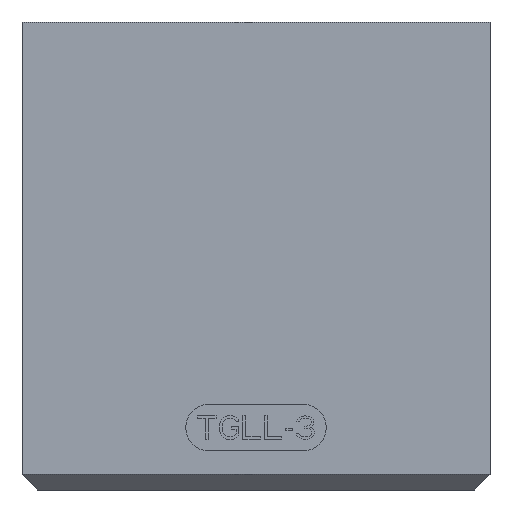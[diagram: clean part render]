
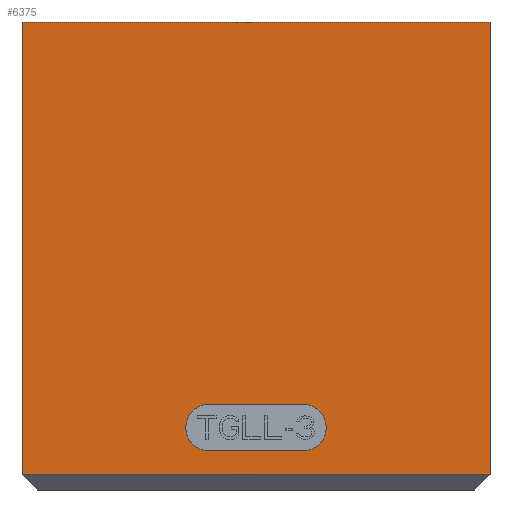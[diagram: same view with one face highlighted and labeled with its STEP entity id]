
A CAD part, front view. The second image highlights one B-rep face of the part: STEP entity #6375.
In plain terms, the highlighted planar face has unit normal (0, -1, 0).
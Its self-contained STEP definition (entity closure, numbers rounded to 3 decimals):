
#77=DIRECTION('',(1.,0.,0.));
#78=VECTOR('',#77,30.);
#79=CARTESIAN_POINT('',(-4.,-6.,12.5));
#80=LINE('',#79,#78);
#336=DIRECTION('',(0.,0.,1.));
#337=VECTOR('',#336,29.);
#338=CARTESIAN_POINT('',(26.,-6.,-16.5));
#339=LINE('',#338,#337);
#1096=CARTESIAN_POINT('',(8.,-6.,-13.5));
#1097=DIRECTION('',(0.,-1.,0.));
#1098=DIRECTION('',(0.,0.,1.));
#1099=AXIS2_PLACEMENT_3D('',#1096,#1097,#1098);
#1104=DIRECTION('',(1.,0.,0.));
#1105=VECTOR('',#1104,6.);
#1106=CARTESIAN_POINT('',(8.,-6.,-15.));
#1107=LINE('',#1106,#1105);
#1111=CARTESIAN_POINT('',(14.,-6.,-13.5));
#1112=DIRECTION('',(0.,-1.,0.));
#1113=DIRECTION('',(0.,0.,-1.));
#1114=AXIS2_PLACEMENT_3D('',#1111,#1112,#1113);
#1119=DIRECTION('',(-1.,0.,0.));
#1120=VECTOR('',#1119,6.);
#1121=CARTESIAN_POINT('',(14.,-6.,-12.));
#1122=LINE('',#1121,#1120);
#1126=DIRECTION('',(-1.,0.,0.));
#1127=VECTOR('',#1126,30.);
#1128=CARTESIAN_POINT('',(26.,-6.,-16.5));
#1129=LINE('',#1128,#1127);
#1133=DIRECTION('',(0.,0.,1.));
#1134=VECTOR('',#1133,29.);
#1135=CARTESIAN_POINT('',(-4.,-6.,-16.5));
#1136=LINE('',#1135,#1134);
#4888=CARTESIAN_POINT('',(-4.,-6.,12.5));
#4890=VERTEX_POINT('',#4888);
#4891=CARTESIAN_POINT('',(26.,-6.,12.5));
#4892=VERTEX_POINT('',#4891);
#4925=CARTESIAN_POINT('',(8.,-6.,-12.));
#4926=CARTESIAN_POINT('',(8.,-6.,-15.));
#4927=VERTEX_POINT('',#4925);
#4928=VERTEX_POINT('',#4926);
#4929=CARTESIAN_POINT('',(14.,-6.,-15.));
#4930=VERTEX_POINT('',#4929);
#4931=CARTESIAN_POINT('',(14.,-6.,-12.));
#4932=VERTEX_POINT('',#4931);
#5591=CARTESIAN_POINT('',(-4.,-6.,-16.5));
#5592=VERTEX_POINT('',#5591);
#5597=CARTESIAN_POINT('',(26.,-6.,-16.5));
#5598=VERTEX_POINT('',#5597);
#6354=CARTESIAN_POINT('',(-4.,-6.,-17.5));
#6355=DIRECTION('',(0.,-1.,0.));
#6356=DIRECTION('',(1.,0.,0.));
#6357=AXIS2_PLACEMENT_3D('',#6354,#6355,#6356);
#6358=PLANE('',#6357);
#6359=ORIENTED_EDGE('',*,*,#6348,.T.);
#6360=ORIENTED_EDGE('',*,*,#6323,.T.);
#6361=ORIENTED_EDGE('',*,*,#5612,.T.);
#6362=ORIENTED_EDGE('',*,*,#5676,.F.);
#6363=EDGE_LOOP('',(#6359,#6360,#6361,#6362));
#6364=FACE_OUTER_BOUND('',#6363,.F.);
#6366=ORIENTED_EDGE('',*,*,#6365,.T.);
#6368=ORIENTED_EDGE('',*,*,#6367,.T.);
#6370=ORIENTED_EDGE('',*,*,#6369,.T.);
#6372=ORIENTED_EDGE('',*,*,#6371,.T.);
#6373=EDGE_LOOP('',(#6366,#6368,#6370,#6372));
#6374=FACE_BOUND('',#6373,.F.);
#1100=CIRCLE('',#1099,1.5);
#1115=CIRCLE('',#1114,1.5);
#5612=EDGE_CURVE('',#4890,#4892,#80,.T.);
#5676=EDGE_CURVE('',#5598,#4892,#339,.T.);
#6323=EDGE_CURVE('',#5592,#4890,#1136,.T.);
#6348=EDGE_CURVE('',#5598,#5592,#1129,.T.);
#6365=EDGE_CURVE('',#4927,#4928,#1100,.T.);
#6367=EDGE_CURVE('',#4928,#4930,#1107,.T.);
#6369=EDGE_CURVE('',#4930,#4932,#1115,.T.);
#6371=EDGE_CURVE('',#4932,#4927,#1122,.T.);
#6375=ADVANCED_FACE('',(#6364,#6374),#6358,.T.);
